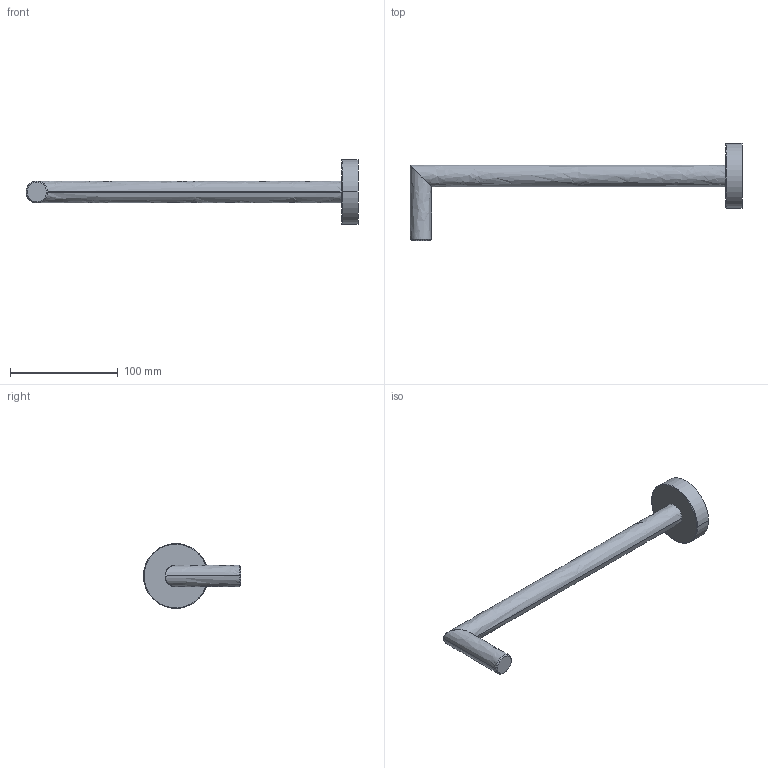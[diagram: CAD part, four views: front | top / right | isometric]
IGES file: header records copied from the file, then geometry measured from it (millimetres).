
Start section:  PTC IGES file: 90931.igs
Global section: file name: 90931.igs; native system: Creo Parametric by PTC Inc.; preprocessor: 2018100; author: carloff; organization: Unknown; date: 20210630.152907; units: millimetre
Bounding box: 308 x 90 x 60 mm (x, y, z)
Surface area: 29955 mm2 (no closed solid volume)
Topology: 0 solids, 0 shells, 13 faces, 52 edges, 52 vertices
Faces by surface type: revolution 10, bspline 3
